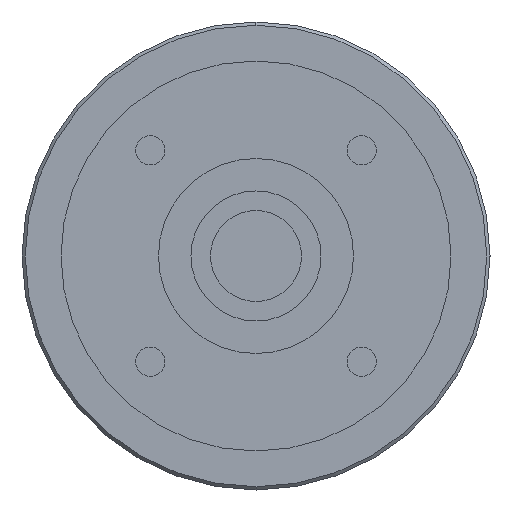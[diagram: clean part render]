
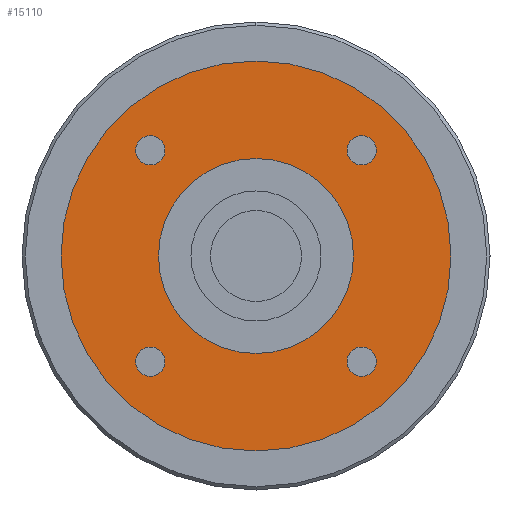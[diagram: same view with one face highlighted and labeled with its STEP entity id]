
A CAD part, left-side view. The second image highlights one B-rep face of the part: STEP entity #15110.
In plain terms, the highlighted planar face has unit normal (-1, 0, 0) as drawn and (0, 0, -1) by its records, which use the part's own axes.
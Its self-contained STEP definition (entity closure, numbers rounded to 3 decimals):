
#11930=CARTESIAN_POINT('',(-14.013,-16.263,-91.));
#11940=VERTEX_POINT('',#11930);
#12120=CARTESIAN_POINT('',(-18.513,-16.263,-91.));
#12130=VERTEX_POINT('',#12120);
#12160=CARTESIAN_POINT('',(-16.263,-16.263,-91.));
#12170=DIRECTION('',(0.,0.,-1.));
#12180=DIRECTION('',(0.,-1.,0.));
#12190=AXIS2_PLACEMENT_3D('',#12160,#12170,#12180);
#12200=CIRCLE('',#12190,2.25);
#12210=CARTESIAN_POINT('',(-16.263,-18.513,-91.));
#12220=VERTEX_POINT('',#12210);
#12230=EDGE_CURVE('',#12220,#12130,#12200,.T.);
#12250=EDGE_CURVE('',#11940,#12220,#12200,.T.);
#12350=CARTESIAN_POINT('',(0.,0.,
-91.));
#12360=DIRECTION('',(0.,0.,1.));
#12370=DIRECTION('',(0.,-1.,0.));
#12380=AXIS2_PLACEMENT_3D('',#12350,#12360,#12370);
#12390=CIRCLE('',#12380,15.);
#12400=CARTESIAN_POINT('',(0.,-15.,-91.));
#12410=VERTEX_POINT('',#12400);
#12420=CARTESIAN_POINT('',(15.,0.,-91.));
#12430=VERTEX_POINT('',#12420);
#12440=EDGE_CURVE('',#12410,#12430,#12390,.T.);
#12670=CARTESIAN_POINT('',(-15.,0.,-91.));
#12680=VERTEX_POINT('',#12670);
#12710=EDGE_CURVE('',#12680,#12410,#12390,.T.);
#14040=CARTESIAN_POINT('',(30.,0.,-91.));
#14050=VERTEX_POINT('',#14040);
#14080=CARTESIAN_POINT('',(0.,0.,
-91.));
#14090=DIRECTION('',(0.,0.,1.));
#14100=DIRECTION('',(0.,-1.,0.));
#14110=AXIS2_PLACEMENT_3D('',#14080,#14090,#14100);
#14120=CIRCLE('',#14110,30.);
#14130=CARTESIAN_POINT('',(0.,-30.,-91.));
#14140=VERTEX_POINT('',#14130);
#14150=EDGE_CURVE('',#14140,#14050,#14120,.T.);
#14170=CARTESIAN_POINT('',(-30.,0.,-91.));
#14180=VERTEX_POINT('',#14170);
#14190=EDGE_CURVE('',#14180,#14140,#14120,.T.);
#14310=CARTESIAN_POINT('',(0.,0.,
-91.));
#14320=DIRECTION('',(0.,0.,1.));
#14330=DIRECTION('',(-1.,0.,0.));
#14340=AXIS2_PLACEMENT_3D('',#14310,#14320,#14330);
#14350=PLANE('',#14340);
#14360=CARTESIAN_POINT('',(16.263,-16.263,-91.));
#14370=DIRECTION('',(0.,0.,-1.));
#14380=DIRECTION('',(1.,0.,0.));
#14390=AXIS2_PLACEMENT_3D('',#14360,#14370,#14380);
#14400=CIRCLE('',#14390,2.25);
#14410=CARTESIAN_POINT('',(18.513,-16.263,-91.));
#14420=VERTEX_POINT('',#14410);
#14430=CARTESIAN_POINT('',(16.263,-18.513,-91.));
#14440=VERTEX_POINT('',#14430);
#14450=EDGE_CURVE('',#14420,#14440,#14400,.T.);
#14460=ORIENTED_EDGE('',*,*,#14450,.F.);
#14470=CARTESIAN_POINT('',(16.263,-14.013,-91.));
#14480=VERTEX_POINT('',#14470);
#14490=EDGE_CURVE('',#14440,#14480,#14400,.T.);
#14500=ORIENTED_EDGE('',*,*,#14490,.F.);
#14510=EDGE_CURVE('',#14480,#14420,#14400,.T.);
#14520=ORIENTED_EDGE('',*,*,#14510,.F.);
#14530=EDGE_LOOP('',(#14520,#14500,#14460));
#14540=FACE_BOUND('',#14530,.T.);
#14550=CARTESIAN_POINT('',(16.263,16.263,-91.));
#14560=DIRECTION('',(0.,0.,-1.));
#14570=DIRECTION('',(0.,1.,0.));
#14580=AXIS2_PLACEMENT_3D('',#14550,#14560,#14570);
#14590=CIRCLE('',#14580,2.25);
#14600=CARTESIAN_POINT('',(16.263,18.513,-91.));
#14610=VERTEX_POINT('',#14600);
#14620=CARTESIAN_POINT('',(18.513,16.263,-91.));
#14630=VERTEX_POINT('',#14620);
#14640=EDGE_CURVE('',#14610,#14630,#14590,.T.);
#14650=ORIENTED_EDGE('',*,*,#14640,.F.);
#14660=CARTESIAN_POINT('',(14.013,16.263,-91.));
#14670=VERTEX_POINT('',#14660);
#14680=EDGE_CURVE('',#14630,#14670,#14590,.T.);
#14690=ORIENTED_EDGE('',*,*,#14680,.F.);
#14700=EDGE_CURVE('',#14670,#14610,#14590,.T.);
#14710=ORIENTED_EDGE('',*,*,#14700,.F.);
#14720=EDGE_LOOP('',(#14710,#14690,#14650));
#14730=FACE_BOUND('',#14720,.T.);
#14740=CARTESIAN_POINT('',(-16.263,16.263,-91.));
#14750=DIRECTION('',(0.,0.,-1.));
#14760=DIRECTION('',(-1.,0.,0.));
#14770=AXIS2_PLACEMENT_3D('',#14740,#14750,#14760);
#14780=CIRCLE('',#14770,2.25);
#14790=CARTESIAN_POINT('',(-18.513,16.263,-91.));
#14800=VERTEX_POINT('',#14790);
#14810=CARTESIAN_POINT('',(-16.263,18.513,-91.));
#14820=VERTEX_POINT('',#14810);
#14830=EDGE_CURVE('',#14800,#14820,#14780,.T.);
#14840=ORIENTED_EDGE('',*,*,#14830,.F.);
#14850=CARTESIAN_POINT('',(-16.263,14.013,-91.));
#14860=VERTEX_POINT('',#14850);
#14870=EDGE_CURVE('',#14820,#14860,#14780,.T.);
#14880=ORIENTED_EDGE('',*,*,#14870,.F.);
#14890=EDGE_CURVE('',#14860,#14800,#14780,.T.);
#14900=ORIENTED_EDGE('',*,*,#14890,.F.);
#14910=EDGE_LOOP('',(#14900,#14880,#14840));
#14920=FACE_BOUND('',#14910,.T.);
#14930=ORIENTED_EDGE('',*,*,#12230,.F.);
#14940=EDGE_CURVE('',#12130,#11940,#12200,.T.);
#14950=ORIENTED_EDGE('',*,*,#14940,.F.);
#14960=ORIENTED_EDGE('',*,*,#12250,.F.);
#14970=EDGE_LOOP('',(#14960,#14950,#14930));
#14980=FACE_BOUND('',#14970,.T.);
#14990=ORIENTED_EDGE('',*,*,#14150,.F.);
#15000=EDGE_CURVE('',#14050,#14180,#14120,.T.);
#15010=ORIENTED_EDGE('',*,*,#15000,.F.);
#15020=ORIENTED_EDGE('',*,*,#14190,.F.);
#15030=EDGE_LOOP('',(#15020,#15010,#14990));
#15040=FACE_OUTER_BOUND('',#15030,.T.);
#15050=EDGE_CURVE('',#12430,#12680,#12390,.T.);
#15060=ORIENTED_EDGE('',*,*,#15050,.T.);
#15070=ORIENTED_EDGE('',*,*,#12440,.T.);
#15080=ORIENTED_EDGE('',*,*,#12710,.T.);
#15090=EDGE_LOOP('',(#15080,#15070,#15060));
#15100=FACE_BOUND('',#15090,.T.);
#15110=ADVANCED_FACE('',(#14540,#14730,#14920,#14980,#15040,#15100),
#14350,.F.);
